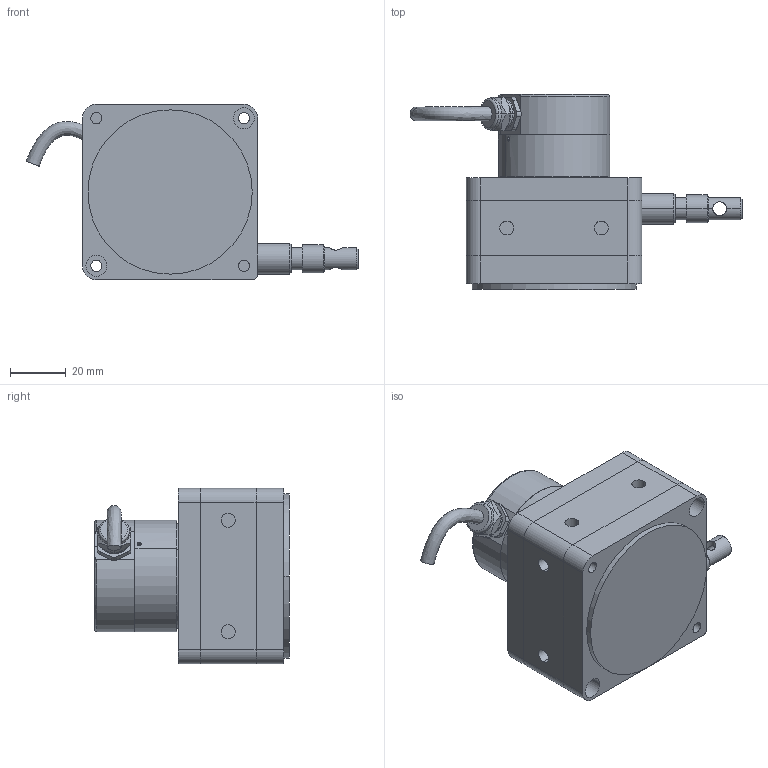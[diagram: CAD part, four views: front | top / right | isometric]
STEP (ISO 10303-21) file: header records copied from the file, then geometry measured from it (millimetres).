
FILE_DESCRIPTION(/* description */ (''),/* implementation_level */ '2;1');
FILE_NAME(/* name */ 'IP68 BRT38-拉线传感器_2m 3D模型_step.stp',/* time_stamp */ '2023-08-29T10:17:35+08:00',/* author */ (''),/* organization */ (''),/* preprocessor_version */ 'ST-DEVELOPER v16.7',/* originating_system */ 'SIEMENS PLM Software NX 12.0',/* authorisation */ '');
FILE_SCHEMA (('AP203_CONFIGURATION_CONTROLLED_3D_DESIGN_OF_MECHANICAL_PARTS_AND_ASSEMBLIES_MIM_LF { 1 0 10303 403 2 1 2}'));
Length unit declared in the file: millimetre
Products named in the file (1): 290156BC952C4r8l
Bounding box: 119.28 x 70 x 63 mm (x, y, z)
Volume: 176713.8 mm3; surface area: 57965.5 mm2
Topology: 14 solids, 15 shells, 409 faces, 1156 edges, 740 vertices
Faces by surface type: cylinder 196, plane 113, torus 53, sphere 26, cone 20, bspline 1
Full cylindrical faces by diameter (mm): 5 x1, 9 x1, 12 x1, 38 x1
Entity records: 14753 total; most frequent: CARTESIAN_POINT 4216, ORIENTED_EDGE 2200, DIRECTION 2195, EDGE_CURVE 1100, AXIS2_PLACEMENT_3D 948, VERTEX_POINT 742, CIRCLE 539, EDGE_LOOP 506
